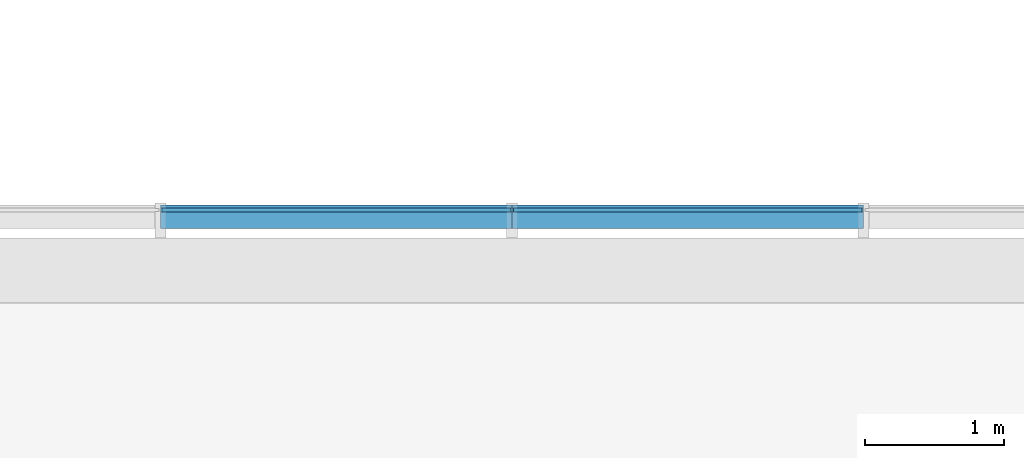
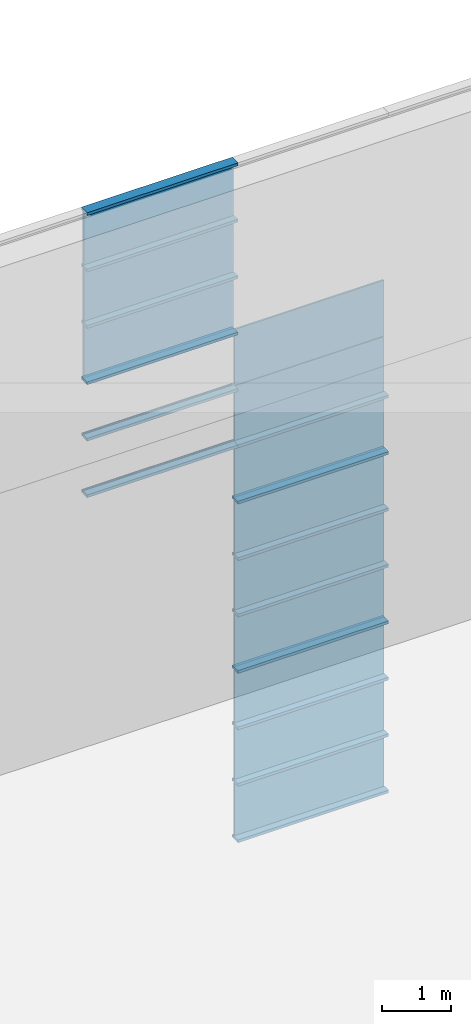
# One storey, part 46 of 105: 29 building element parts, 4 elements without a shape of their own.
"""IFC4 building model written with IfcOpenShell, lengths in millimetres."""

from ifc_helpers import new_model, entity, si_unit, converted_unit, derived_unit, direction, frame, origin_with_axes, place, context, subcontext, project, spatial, triangles, material, element, aggregate, save


model = new_model("IFC4")

# Units and contexts
model_context = context("Model", 3, precision=1e-05, world=origin_with_axes(), true_north=direction((0.0, 1.0)))
body_context = subcontext(model_context, "Body", "Model", "MODEL_VIEW")
ifc_project = project(units=[si_unit("LENGTHUNIT", "METRE", prefix="MILLI"), si_unit("AREAUNIT", "SQUARE_METRE"), si_unit("VOLUMEUNIT", "CUBIC_METRE"), converted_unit("PLANEANGLEUNIT", "DEGREE", entity("IfcLengthMeasure", 0.017453), si_unit("PLANEANGLEUNIT", "RADIAN"), dimensions=[0, 0, 0, 0, 0, 0, 0]), si_unit("SOLIDANGLEUNIT", "STERADIAN"), si_unit("MASSUNIT", "GRAM"), si_unit("TIMEUNIT", "SECOND"), si_unit("THERMODYNAMICTEMPERATUREUNIT", "DEGREE_CELSIUS"), si_unit("LUMINOUSINTENSITYUNIT", "LUMEN"), si_unit("POWERUNIT", "WATT"), derived_unit("THERMALTRANSMITTANCEUNIT", [(si_unit("POWERUNIT", "WATT"), 1), (si_unit("THERMODYNAMICTEMPERATUREUNIT", "KELVIN"), -1), (si_unit("AREAUNIT", "SQUARE_METRE"), -1)])], contexts=[model_context])

# Site, building, storey
site_placement = place(None, origin_with_axes())
site = spatial("IfcSite", under=ifc_project, at=site_placement, Name="Default Site", CompositionType="ELEMENT")
building_placement = place(site_placement, origin_with_axes())
building = spatial("IfcBuilding", under=site, at=building_placement, Name="Default Building", CompositionType="ELEMENT")
storey_placement = place(building_placement, origin_with_axes())
storey = spatial("IfcBuildingStorey", under=building, at=storey_placement, Name="OG - Story", CompositionType="ELEMENT", Elevation=0.0)

# Curtain wall, building element parts
curtain_wall_1_placement = place(storey_placement, origin_with_axes())
curtain_wall_1 = element("IfcCurtainWall", 1, at=curtain_wall_1_placement, inside=storey, Name="Fassade-004", PredefinedType="NOTDEFINED")
ifc_material_1 = material(Name="Normalglas")
building_element_part_1_placement = place(curtain_wall_1_placement, frame((33014.549222, -4389.262838, 0.0), z_axis=(0.0, 0.0, 1.0), x_axis=(1.0, 0.0, 0.0)))
building_element_part_1 = element("IfcBuildingElementPart", 2, at=building_element_part_1_placement, material=ifc_material_1, Name="Normalglas", PredefinedType="NOTDEFINED", context=body_context, shape_type="Tessellation", body=[
    triangles([(18937.368, -14.999, 995.0), (18937.368, 15.0, 995.0), (16431.053, 15.0, 995.0), (16431.053, -14.999, 995.0), (18937.368, -14.999, 5.0), (18937.368, 15.0, 5.0), (16431.053, 15.0, 5.0), (16431.053, -14.999, 5.0)], [[1, 2, 3], [1, 3, 4], [5, 6, 2], [5, 2, 1], [2, 6, 7], [2, 7, 3], [4, 3, 7], [4, 7, 8], [1, 4, 8], [1, 8, 5], [8, 7, 6], [8, 6, 5]], closed=False),
])
building_element_part_2_placement = place(curtain_wall_1_placement, frame((33014.549222, -4389.262838, 0.0), z_axis=(0.0, 0.0, 1.0), x_axis=(1.0, 0.0, 0.0)))
building_element_part_2 = element("IfcBuildingElementPart", 3, at=building_element_part_2_placement, material=ifc_material_1, Name="Normalglas", PredefinedType="NOTDEFINED", context=body_context, shape_type="Tessellation", body=[
    triangles([(18937.368, -14.999, 1995.0), (18937.368, 15.0, 1995.0), (16431.053, 15.0, 1995.0), (16431.053, -14.999, 1995.0), (18937.368, -14.999, 1005.0), (18937.368, 15.0, 1005.0), (16431.053, 15.0, 1005.0), (16431.053, -14.999, 1005.0)], [[1, 2, 3], [1, 3, 4], [5, 6, 2], [5, 2, 1], [2, 6, 7], [2, 7, 3], [4, 3, 7], [4, 7, 8], [1, 4, 8], [1, 8, 5], [8, 7, 6], [8, 6, 5]], closed=False),
])
building_element_part_3_placement = place(curtain_wall_1_placement, frame((33014.549222, -4389.262838, 0.0), z_axis=(0.0, 0.0, 1.0), x_axis=(1.0, 0.0, 0.0)))
building_element_part_3 = element("IfcBuildingElementPart", 4, at=building_element_part_3_placement, material=ifc_material_1, Name="Normalglas", PredefinedType="NOTDEFINED", context=body_context, shape_type="Tessellation", body=[
    triangles([(18937.368, -14.999, 2995.0), (18937.368, 15.0, 2995.0), (16431.053, 15.0, 2995.0), (16431.053, -14.999, 2995.0), (18937.368, -14.999, 2005.0), (18937.368, 15.0, 2005.0), (16431.053, 15.0, 2005.0), (16431.053, -14.999, 2005.0)], [[1, 2, 3], [1, 3, 4], [5, 6, 2], [5, 2, 1], [2, 6, 7], [2, 7, 3], [4, 3, 7], [4, 7, 8], [1, 4, 8], [1, 8, 5], [8, 7, 6], [8, 6, 5]], closed=False),
])
ifc_material_2 = material(Name="Blech")
building_element_part_4_placement = place(curtain_wall_1_placement, frame((33014.549222, -4389.262838, 0.0), z_axis=(0.0, 0.0, 1.0), x_axis=(1.0, 0.0, 0.0)))
building_element_part_4 = element("IfcBuildingElementPart", 5, at=building_element_part_4_placement, material=ifc_material_2, Name="Blech", PredefinedType="NOTDEFINED", context=body_context, shape_type="Tessellation", body=[
    triangles([(18947.368, 35.0, -24.999), (18947.368, 35.0, 25.0), (18947.368, 15.0, 25.0), (18947.368, 15.0, 5.0), (18947.368, -14.999, 5.0), (18947.368, -132.999, 25.0), (18947.368, -132.999, -24.999), (18947.368, -14.999, 25.0), (16421.053, -14.999, 5.0), (16421.053, -14.999, 25.0), (16421.053, -132.999, 25.0), (16421.053, -132.999, -24.999), (16421.053, 35.0, -24.999), (16421.053, 35.0, 25.0), (16421.053, 15.0, 25.0), (16421.053, 15.0, 5.0)], [[1, 2, 3], [1, 3, 4], [1, 4, 5], [1, 5, 6], [1, 6, 7], [8, 6, 5], [5, 9, 10], [5, 10, 8], [10, 11, 6], [10, 6, 8], [11, 12, 7], [11, 7, 6], [12, 13, 1], [12, 1, 7], [13, 14, 2], [13, 2, 1], [3, 2, 14], [3, 14, 15], [15, 16, 4], [15, 4, 3], [4, 16, 9], [4, 9, 5], [15, 16, 13], [13, 16, 9], [13, 9, 11], [11, 9, 10], [13, 11, 12], [15, 13, 14]], closed=False),
])
building_element_part_5_placement = place(curtain_wall_1_placement, frame((33014.549222, -4389.262838, 0.0), z_axis=(0.0, 0.0, 1.0), x_axis=(1.0, 0.0, 0.0)))
building_element_part_5 = element("IfcBuildingElementPart", 6, at=building_element_part_5_placement, material=ifc_material_2, Name="Blech", PredefinedType="NOTDEFINED", context=body_context, shape_type="Tessellation", body=[
    triangles([(18947.368, 35.0, 975.0), (18947.368, 15.0, 975.0), (18947.368, 35.0, 1025.0), (18947.368, 15.0, 995.0), (18947.368, 15.0, 1005.0), (18947.368, -14.999, 995.0), (18947.368, -14.999, 1005.0), (18947.368, -14.999, 1025.0), (18947.368, -14.999, 975.0), (18947.368, -132.999, 975.0), (18947.368, -132.999, 1025.0), (18947.368, 15.0, 1025.0), (16421.053, -14.999, 995.0), (16421.053, 15.0, 995.0), (16421.053, 15.0, 975.0), (16421.053, 35.0, 975.0), (16421.053, 35.0, 1025.0), (16421.053, 15.0, 1025.0), (16421.053, 15.0, 1005.0), (16421.053, -14.999, 1005.0), (16421.053, -14.999, 1025.0), (16421.053, -132.999, 1025.0), (16421.053, -132.999, 975.0), (16421.053, -14.999, 975.0)], [[1, 2, 3], [3, 2, 4], [3, 4, 5], [5, 4, 6], [5, 6, 7], [8, 9, 10], [8, 10, 11], [3, 5, 12], [6, 13, 14], [6, 14, 4], [4, 14, 15], [4, 15, 2], [15, 16, 1], [15, 1, 2], [1, 16, 17], [1, 17, 3], [18, 12, 3], [18, 3, 17], [12, 18, 19], [12, 19, 5], [7, 5, 19], [7, 19, 20], [8, 7, 20], [8, 20, 21], [8, 21, 22], [8, 22, 11], [11, 22, 23], [11, 23, 10], [9, 10, 23], [9, 23, 24], [9, 24, 13], [9, 13, 6], [17, 18, 16], [16, 18, 19], [16, 19, 14], [14, 19, 20], [14, 20, 13], [24, 21, 22], [24, 22, 23], [16, 14, 15]], closed=False),
])
building_element_part_6_placement = place(curtain_wall_1_placement, frame((33014.549222, -4389.262838, 0.0), z_axis=(0.0, 0.0, 1.0), x_axis=(1.0, 0.0, 0.0)))
building_element_part_6 = element("IfcBuildingElementPart", 7, at=building_element_part_6_placement, material=ifc_material_2, Name="Blech", PredefinedType="NOTDEFINED", context=body_context, shape_type="Tessellation", body=[
    triangles([(18947.368, 35.0, 1975.0), (18947.368, 15.0, 1975.0), (18947.368, 35.0, 2025.0), (18947.368, 15.0, 1995.0), (18947.368, 15.0, 2005.0), (18947.368, -14.999, 1995.0), (18947.368, -14.999, 2005.0), (18947.368, -14.999, 2025.0), (18947.368, -14.999, 1975.0), (18947.368, -132.999, 1975.0), (18947.368, -132.999, 2025.0), (18947.368, 15.0, 2025.0), (16421.053, -14.999, 1995.0), (16421.053, 15.0, 1995.0), (16421.053, 15.0, 1975.0), (16421.053, 35.0, 1975.0), (16421.053, 35.0, 2025.0), (16421.053, 15.0, 2025.0), (16421.053, 15.0, 2005.0), (16421.053, -14.999, 2005.0), (16421.053, -14.999, 2025.0), (16421.053, -132.999, 2025.0), (16421.053, -132.999, 1975.0), (16421.053, -14.999, 1975.0)], [[1, 2, 3], [3, 2, 4], [3, 4, 5], [5, 4, 6], [5, 6, 7], [8, 9, 10], [8, 10, 11], [3, 5, 12], [6, 13, 14], [6, 14, 4], [4, 14, 15], [4, 15, 2], [15, 16, 1], [15, 1, 2], [1, 16, 17], [1, 17, 3], [18, 12, 3], [18, 3, 17], [12, 18, 19], [12, 19, 5], [7, 5, 19], [7, 19, 20], [8, 7, 20], [8, 20, 21], [8, 21, 22], [8, 22, 11], [11, 22, 23], [11, 23, 10], [9, 10, 23], [9, 23, 24], [9, 24, 13], [9, 13, 6], [17, 18, 16], [16, 18, 19], [16, 19, 14], [14, 19, 20], [14, 20, 13], [24, 21, 22], [24, 22, 23], [16, 14, 15]], closed=False),
])
building_element_part_7_placement = place(curtain_wall_1_placement, frame((33014.549222, -4389.262838, 0.0), z_axis=(0.0, 0.0, 1.0), x_axis=(1.0, 0.0, 0.0)))
building_element_part_7 = element("IfcBuildingElementPart", 8, at=building_element_part_7_placement, material=ifc_material_2, Name="Blech", PredefinedType="NOTDEFINED", context=body_context, shape_type="Tessellation", body=[
    triangles([(18947.368, 15.0, 2975.0), (18947.368, 15.0, 2995.0), (18947.368, 35.0, 3025.0), (18947.368, -14.999, 2995.0), (18947.368, -132.999, 2975.0), (18947.368, -14.999, 2975.0), (18947.368, -132.999, 3025.0), (18947.368, 35.0, 2975.0), (16421.053, -14.999, 2995.0), (16421.053, 15.0, 2995.0), (16421.053, 15.0, 2975.0), (16421.053, 35.0, 2975.0), (16421.053, 35.0, 3025.0), (16421.053, -132.999, 3025.0), (16421.053, -132.999, 2975.0), (16421.053, -14.999, 2975.0)], [[1, 2, 3], [3, 2, 4], [3, 4, 5], [5, 4, 6], [3, 5, 7], [1, 3, 8], [2, 4, 9], [2, 9, 10], [11, 1, 2], [11, 2, 10], [1, 11, 12], [1, 12, 8], [13, 3, 8], [13, 8, 12], [14, 7, 3], [14, 3, 13], [15, 5, 7], [15, 7, 14], [16, 6, 5], [16, 5, 15], [4, 6, 16], [4, 16, 9], [13, 12, 11], [13, 11, 10], [13, 10, 9], [13, 9, 15], [13, 15, 14], [16, 15, 9]], closed=False),
])
aggregate(curtain_wall_1, [building_element_part_1, building_element_part_2, building_element_part_3, building_element_part_4, building_element_part_5, building_element_part_6, building_element_part_7])

curtain_wall_2_placement = place(storey_placement, origin_with_axes())
curtain_wall_2 = element("IfcCurtainWall", 9, at=curtain_wall_2_placement, inside=storey, Name="Fassade-004", PredefinedType="NOTDEFINED")
building_element_part_8_placement = place(curtain_wall_2_placement, frame((33014.549222, -4389.262838, 3000.0), z_axis=(0.0, 0.0, 1.0), x_axis=(1.0, 0.0, 0.0)))
building_element_part_8 = element("IfcBuildingElementPart", 10, at=building_element_part_8_placement, material=ifc_material_1, Name="Normalglas", PredefinedType="NOTDEFINED", context=body_context, shape_type="Tessellation", body=[
    triangles([(18937.368, -14.999, 995.0), (18937.368, 15.0, 995.0), (16431.053, 15.0, 995.0), (16431.053, -14.999, 995.0), (18937.368, -14.999, 5.0), (18937.368, 15.0, 5.0), (16431.053, 15.0, 5.0), (16431.053, -14.999, 5.0)], [[1, 2, 3], [1, 3, 4], [5, 6, 2], [5, 2, 1], [2, 6, 7], [2, 7, 3], [4, 3, 7], [4, 7, 8], [1, 4, 8], [1, 8, 5], [8, 7, 6], [8, 6, 5]], closed=False),
])
building_element_part_9_placement = place(curtain_wall_2_placement, frame((33014.549222, -4389.262838, 3000.0), z_axis=(0.0, 0.0, 1.0), x_axis=(1.0, 0.0, 0.0)))
building_element_part_9 = element("IfcBuildingElementPart", 11, at=building_element_part_9_placement, material=ifc_material_1, Name="Normalglas", PredefinedType="NOTDEFINED", context=body_context, shape_type="Tessellation", body=[
    triangles([(18937.368, -14.999, 1995.0), (18937.368, 15.0, 1995.0), (16431.053, 15.0, 1995.0), (16431.053, -14.999, 1995.0), (18937.368, -14.999, 1005.0), (18937.368, 15.0, 1005.0), (16431.053, 15.0, 1005.0), (16431.053, -14.999, 1005.0)], [[1, 2, 3], [1, 3, 4], [5, 6, 2], [5, 2, 1], [2, 6, 7], [2, 7, 3], [4, 3, 7], [4, 7, 8], [1, 4, 8], [1, 8, 5], [8, 7, 6], [8, 6, 5]], closed=False),
])
building_element_part_10_placement = place(curtain_wall_2_placement, frame((33014.549222, -4389.262838, 3000.0), z_axis=(0.0, 0.0, 1.0), x_axis=(1.0, 0.0, 0.0)))
building_element_part_10 = element("IfcBuildingElementPart", 12, at=building_element_part_10_placement, material=ifc_material_1, Name="Normalglas", PredefinedType="NOTDEFINED", context=body_context, shape_type="Tessellation", body=[
    triangles([(18937.368, -14.999, 2995.0), (18937.368, 15.0, 2995.0), (16431.053, 15.0, 2995.0), (16431.053, -14.999, 2995.0), (18937.368, -14.999, 2005.0), (18937.368, 15.0, 2005.0), (16431.053, 15.0, 2005.0), (16431.053, -14.999, 2005.0)], [[1, 2, 3], [1, 3, 4], [5, 6, 2], [5, 2, 1], [2, 6, 7], [2, 7, 3], [4, 3, 7], [4, 7, 8], [1, 4, 8], [1, 8, 5], [8, 7, 6], [8, 6, 5]], closed=False),
])
building_element_part_11_placement = place(curtain_wall_2_placement, frame((33014.549222, -4389.262838, 3000.0), z_axis=(0.0, 0.0, 1.0), x_axis=(1.0, 0.0, 0.0)))
building_element_part_11 = element("IfcBuildingElementPart", 13, at=building_element_part_11_placement, material=ifc_material_2, Name="Blech", PredefinedType="NOTDEFINED", context=body_context, shape_type="Tessellation", body=[
    triangles([(18947.368, 35.0, -24.999), (18947.368, 35.0, 25.0), (18947.368, 15.0, 25.0), (18947.368, 15.0, 5.0), (18947.368, -14.999, 5.0), (18947.368, -132.999, 25.0), (18947.368, -132.999, -24.999), (18947.368, -14.999, 25.0), (16421.053, -14.999, 5.0), (16421.053, -14.999, 25.0), (16421.053, -132.999, 25.0), (16421.053, -132.999, -24.999), (16421.053, 35.0, -24.999), (16421.053, 35.0, 25.0), (16421.053, 15.0, 25.0), (16421.053, 15.0, 5.0)], [[1, 2, 3], [1, 3, 4], [1, 4, 5], [1, 5, 6], [1, 6, 7], [8, 6, 5], [5, 9, 10], [5, 10, 8], [10, 11, 6], [10, 6, 8], [11, 12, 7], [11, 7, 6], [12, 13, 1], [12, 1, 7], [13, 14, 2], [13, 2, 1], [3, 2, 14], [3, 14, 15], [15, 16, 4], [15, 4, 3], [4, 16, 9], [4, 9, 5], [15, 16, 13], [13, 16, 9], [13, 9, 11], [11, 9, 10], [13, 11, 12], [15, 13, 14]], closed=False),
])
building_element_part_12_placement = place(curtain_wall_2_placement, frame((33014.549222, -4389.262838, 3000.0), z_axis=(0.0, 0.0, 1.0), x_axis=(1.0, 0.0, 0.0)))
building_element_part_12 = element("IfcBuildingElementPart", 14, at=building_element_part_12_placement, material=ifc_material_2, Name="Blech", PredefinedType="NOTDEFINED", context=body_context, shape_type="Tessellation", body=[
    triangles([(18947.368, 35.0, 975.0), (18947.368, 15.0, 975.0), (18947.368, 35.0, 1025.0), (18947.368, 15.0, 995.0), (18947.368, 15.0, 1005.0), (18947.368, -14.999, 995.0), (18947.368, -14.999, 1005.0), (18947.368, -14.999, 1025.0), (18947.368, -14.999, 975.0), (18947.368, -132.999, 975.0), (18947.368, -132.999, 1025.0), (18947.368, 15.0, 1025.0), (16421.053, -14.999, 995.0), (16421.053, 15.0, 995.0), (16421.053, 15.0, 975.0), (16421.053, 35.0, 975.0), (16421.053, 35.0, 1025.0), (16421.053, 15.0, 1025.0), (16421.053, 15.0, 1005.0), (16421.053, -14.999, 1005.0), (16421.053, -14.999, 1025.0), (16421.053, -132.999, 1025.0), (16421.053, -132.999, 975.0), (16421.053, -14.999, 975.0)], [[1, 2, 3], [3, 2, 4], [3, 4, 5], [5, 4, 6], [5, 6, 7], [8, 9, 10], [8, 10, 11], [3, 5, 12], [6, 13, 14], [6, 14, 4], [4, 14, 15], [4, 15, 2], [15, 16, 1], [15, 1, 2], [1, 16, 17], [1, 17, 3], [18, 12, 3], [18, 3, 17], [12, 18, 19], [12, 19, 5], [7, 5, 19], [7, 19, 20], [8, 7, 20], [8, 20, 21], [8, 21, 22], [8, 22, 11], [11, 22, 23], [11, 23, 10], [9, 10, 23], [9, 23, 24], [9, 24, 13], [9, 13, 6], [17, 18, 16], [16, 18, 19], [16, 19, 14], [14, 19, 20], [14, 20, 13], [24, 21, 22], [24, 22, 23], [16, 14, 15]], closed=False),
])
building_element_part_13_placement = place(curtain_wall_2_placement, frame((33014.549222, -4389.262838, 3000.0), z_axis=(0.0, 0.0, 1.0), x_axis=(1.0, 0.0, 0.0)))
building_element_part_13 = element("IfcBuildingElementPart", 15, at=building_element_part_13_placement, material=ifc_material_2, Name="Blech", PredefinedType="NOTDEFINED", context=body_context, shape_type="Tessellation", body=[
    triangles([(18947.368, 35.0, 1975.0), (18947.368, 15.0, 1975.0), (18947.368, 35.0, 2025.0), (18947.368, 15.0, 1995.0), (18947.368, 15.0, 2005.0), (18947.368, -14.999, 1995.0), (18947.368, -14.999, 2005.0), (18947.368, -14.999, 2025.0), (18947.368, -14.999, 1975.0), (18947.368, -132.999, 1975.0), (18947.368, -132.999, 2025.0), (18947.368, 15.0, 2025.0), (16421.053, -14.999, 1995.0), (16421.053, 15.0, 1995.0), (16421.053, 15.0, 1975.0), (16421.053, 35.0, 1975.0), (16421.053, 35.0, 2025.0), (16421.053, 15.0, 2025.0), (16421.053, 15.0, 2005.0), (16421.053, -14.999, 2005.0), (16421.053, -14.999, 2025.0), (16421.053, -132.999, 2025.0), (16421.053, -132.999, 1975.0), (16421.053, -14.999, 1975.0)], [[1, 2, 3], [3, 2, 4], [3, 4, 5], [5, 4, 6], [5, 6, 7], [8, 9, 10], [8, 10, 11], [3, 5, 12], [6, 13, 14], [6, 14, 4], [4, 14, 15], [4, 15, 2], [15, 16, 1], [15, 1, 2], [1, 16, 17], [1, 17, 3], [18, 12, 3], [18, 3, 17], [12, 18, 19], [12, 19, 5], [7, 5, 19], [7, 19, 20], [8, 7, 20], [8, 20, 21], [8, 21, 22], [8, 22, 11], [11, 22, 23], [11, 23, 10], [9, 10, 23], [9, 23, 24], [9, 24, 13], [9, 13, 6], [17, 18, 16], [16, 18, 19], [16, 19, 14], [14, 19, 20], [14, 20, 13], [24, 21, 22], [24, 22, 23], [16, 14, 15]], closed=False),
])
building_element_part_14_placement = place(curtain_wall_2_placement, frame((33014.549222, -4389.262838, 3000.0), z_axis=(0.0, 0.0, 1.0), x_axis=(1.0, 0.0, 0.0)))
building_element_part_14 = element("IfcBuildingElementPart", 16, at=building_element_part_14_placement, material=ifc_material_2, Name="Blech", PredefinedType="NOTDEFINED", context=body_context, shape_type="Tessellation", body=[
    triangles([(18947.368, 15.0, 2975.0), (18947.368, 15.0, 2995.0), (18947.368, 35.0, 3025.0), (18947.368, -14.999, 2995.0), (18947.368, -132.999, 2975.0), (18947.368, -14.999, 2975.0), (18947.368, -132.999, 3025.0), (18947.368, 35.0, 2975.0), (16421.053, -14.999, 2995.0), (16421.053, 15.0, 2995.0), (16421.053, 15.0, 2975.0), (16421.053, 35.0, 2975.0), (16421.053, 35.0, 3025.0), (16421.053, -132.999, 3025.0), (16421.053, -132.999, 2975.0), (16421.053, -14.999, 2975.0)], [[1, 2, 3], [3, 2, 4], [3, 4, 5], [5, 4, 6], [3, 5, 7], [1, 3, 8], [2, 4, 9], [2, 9, 10], [11, 1, 2], [11, 2, 10], [1, 11, 12], [1, 12, 8], [13, 3, 8], [13, 8, 12], [14, 7, 3], [14, 3, 13], [15, 5, 7], [15, 7, 14], [16, 6, 5], [16, 5, 15], [4, 6, 16], [4, 16, 9], [13, 12, 11], [13, 11, 10], [13, 10, 9], [13, 9, 15], [13, 15, 14], [16, 15, 9]], closed=False),
])
aggregate(curtain_wall_2, [building_element_part_8, building_element_part_9, building_element_part_10, building_element_part_11, building_element_part_12, building_element_part_13, building_element_part_14])

curtain_wall_3_placement = place(storey_placement, origin_with_axes())
curtain_wall_3 = element("IfcCurtainWall", 17, at=curtain_wall_3_placement, inside=storey, Name="Fassade-004", PredefinedType="NOTDEFINED")
building_element_part_15_placement = place(curtain_wall_3_placement, frame((33014.549222, -4389.262838, 6000.0), z_axis=(0.0, 0.0, 1.0), x_axis=(1.0, 0.0, 0.0)))
building_element_part_15 = element("IfcBuildingElementPart", 18, at=building_element_part_15_placement, material=ifc_material_1, Name="Normalglas", PredefinedType="NOTDEFINED", context=body_context, shape_type="Tessellation", body=[
    triangles([(18937.368, -14.999, 995.0), (18937.368, 15.0, 995.0), (16431.053, 15.0, 995.0), (16431.053, -14.999, 995.0), (18937.368, -14.999, 5.0), (18937.368, 15.0, 5.0), (16431.053, 15.0, 5.0), (16431.053, -14.999, 5.0)], [[1, 2, 3], [1, 3, 4], [5, 6, 2], [5, 2, 1], [2, 6, 7], [2, 7, 3], [4, 3, 7], [4, 7, 8], [1, 4, 8], [1, 8, 5], [8, 7, 6], [8, 6, 5]], closed=False),
])
building_element_part_16_placement = place(curtain_wall_3_placement, frame((33014.549222, -4389.262838, 6000.0), z_axis=(0.0, 0.0, 1.0), x_axis=(1.0, 0.0, 0.0)))
building_element_part_16 = element("IfcBuildingElementPart", 19, at=building_element_part_16_placement, material=ifc_material_1, Name="Normalglas", PredefinedType="NOTDEFINED", context=body_context, shape_type="Tessellation", body=[
    triangles([(18937.368, -14.999, 1995.0), (18937.368, 15.0, 1995.0), (16431.053, 15.0, 1995.0), (16431.053, -14.999, 1995.0), (18937.368, -14.999, 1005.0), (18937.368, 15.0, 1005.0), (16431.053, 15.0, 1005.0), (16431.053, -14.999, 1005.0)], [[1, 2, 3], [1, 3, 4], [5, 6, 2], [5, 2, 1], [2, 6, 7], [2, 7, 3], [4, 3, 7], [4, 7, 8], [1, 4, 8], [1, 8, 5], [8, 7, 6], [8, 6, 5]], closed=False),
])
building_element_part_17_placement = place(curtain_wall_3_placement, frame((33014.549222, -4389.262838, 6000.0), z_axis=(0.0, 0.0, 1.0), x_axis=(1.0, 0.0, 0.0)))
building_element_part_17 = element("IfcBuildingElementPart", 20, at=building_element_part_17_placement, material=ifc_material_1, Name="Normalglas", PredefinedType="NOTDEFINED", context=body_context, shape_type="Tessellation", body=[
    triangles([(18937.368, -14.999, 2995.0), (18937.368, 15.0, 2995.0), (16431.053, 15.0, 2995.0), (16431.053, -14.999, 2995.0), (18937.368, -14.999, 2005.0), (18937.368, 15.0, 2005.0), (16431.053, 15.0, 2005.0), (16431.053, -14.999, 2005.0)], [[1, 2, 3], [1, 3, 4], [5, 6, 2], [5, 2, 1], [2, 6, 7], [2, 7, 3], [4, 3, 7], [4, 7, 8], [1, 4, 8], [1, 8, 5], [8, 7, 6], [8, 6, 5]], closed=False),
])
building_element_part_18_placement = place(curtain_wall_3_placement, frame((33014.549222, -4389.262838, 6000.0), z_axis=(0.0, 0.0, 1.0), x_axis=(1.0, 0.0, 0.0)))
building_element_part_18 = element("IfcBuildingElementPart", 21, at=building_element_part_18_placement, material=ifc_material_2, Name="Blech", PredefinedType="NOTDEFINED", context=body_context, shape_type="Tessellation", body=[
    triangles([(18947.368, 35.0, -24.999), (18947.368, 35.0, 25.0), (18947.368, 15.0, 25.0), (18947.368, 15.0, 5.0), (18947.368, -14.999, 5.0), (18947.368, -132.999, 25.0), (18947.368, -132.999, -24.999), (18947.368, -14.999, 25.0), (16421.053, -14.999, 5.0), (16421.053, -14.999, 25.0), (16421.053, -132.999, 25.0), (16421.053, -132.999, -24.999), (16421.053, 35.0, -24.999), (16421.053, 35.0, 25.0), (16421.053, 15.0, 25.0), (16421.053, 15.0, 5.0)], [[1, 2, 3], [1, 3, 4], [1, 4, 5], [1, 5, 6], [1, 6, 7], [8, 6, 5], [5, 9, 10], [5, 10, 8], [10, 11, 6], [10, 6, 8], [11, 12, 7], [11, 7, 6], [12, 13, 1], [12, 1, 7], [13, 14, 2], [13, 2, 1], [3, 2, 14], [3, 14, 15], [15, 16, 4], [15, 4, 3], [4, 16, 9], [4, 9, 5], [15, 16, 13], [13, 16, 9], [13, 9, 11], [11, 9, 10], [13, 11, 12], [15, 13, 14]], closed=False),
])
building_element_part_19_placement = place(curtain_wall_3_placement, frame((33014.549222, -4389.262838, 6000.0), z_axis=(0.0, 0.0, 1.0), x_axis=(1.0, 0.0, 0.0)))
building_element_part_19 = element("IfcBuildingElementPart", 22, at=building_element_part_19_placement, material=ifc_material_2, Name="Blech", PredefinedType="NOTDEFINED", context=body_context, shape_type="Tessellation", body=[
    triangles([(16421.053, 35.0, 975.0), (16421.053, 15.0, 975.0), (16421.053, 35.0, 1025.0), (16421.053, 15.0, 995.0), (16421.053, 15.0, 1005.0), (16421.053, -14.999, 995.0), (16421.053, -14.999, 1005.0), (16421.053, -14.999, 1025.0), (16421.053, -14.999, 975.0), (16421.053, -132.999, 975.0), (16421.053, -132.999, 1025.0), (16421.053, 15.0, 1025.0), (13894.737, -14.999, 995.0), (13894.737, 15.0, 995.0), (13894.737, 15.0, 975.0), (13894.737, 35.0, 975.0), (13894.737, 35.0, 1025.0), (13894.737, 15.0, 1025.0), (13894.737, 15.0, 1005.0), (13894.737, -14.999, 1005.0), (13894.737, -14.999, 1025.0), (13894.737, -132.999, 1025.0), (13894.737, -132.999, 975.0), (13894.737, -14.999, 975.0)], [[1, 2, 3], [3, 2, 4], [3, 4, 5], [5, 4, 6], [5, 6, 7], [8, 9, 10], [8, 10, 11], [3, 5, 12], [6, 13, 14], [6, 14, 4], [4, 14, 15], [4, 15, 2], [15, 16, 1], [15, 1, 2], [1, 16, 17], [1, 17, 3], [18, 12, 3], [18, 3, 17], [12, 18, 19], [12, 19, 5], [7, 5, 19], [7, 19, 20], [8, 7, 20], [8, 20, 21], [8, 21, 22], [8, 22, 11], [11, 22, 23], [11, 23, 10], [9, 10, 23], [9, 23, 24], [9, 24, 13], [9, 13, 6], [17, 18, 16], [16, 18, 19], [16, 19, 14], [14, 19, 20], [14, 20, 13], [24, 21, 22], [24, 22, 23], [16, 14, 15]], closed=False),
])
building_element_part_20_placement = place(curtain_wall_3_placement, frame((33014.549222, -4389.262838, 6000.0), z_axis=(0.0, 0.0, 1.0), x_axis=(1.0, 0.0, 0.0)))
building_element_part_20 = element("IfcBuildingElementPart", 23, at=building_element_part_20_placement, material=ifc_material_2, Name="Blech", PredefinedType="NOTDEFINED", context=body_context, shape_type="Tessellation", body=[
    triangles([(18947.368, 35.0, 975.0), (18947.368, 15.0, 975.0), (18947.368, 35.0, 1025.0), (18947.368, 15.0, 995.0), (18947.368, 15.0, 1005.0), (18947.368, -14.999, 995.0), (18947.368, -14.999, 1005.0), (18947.368, -14.999, 1025.0), (18947.368, -14.999, 975.0), (18947.368, -132.999, 975.0), (18947.368, -132.999, 1025.0), (18947.368, 15.0, 1025.0), (16421.053, -14.999, 995.0), (16421.053, 15.0, 995.0), (16421.053, 15.0, 975.0), (16421.053, 35.0, 975.0), (16421.053, 35.0, 1025.0), (16421.053, 15.0, 1025.0), (16421.053, 15.0, 1005.0), (16421.053, -14.999, 1005.0), (16421.053, -14.999, 1025.0), (16421.053, -132.999, 1025.0), (16421.053, -132.999, 975.0), (16421.053, -14.999, 975.0)], [[1, 2, 3], [3, 2, 4], [3, 4, 5], [5, 4, 6], [5, 6, 7], [8, 9, 10], [8, 10, 11], [3, 5, 12], [6, 13, 14], [6, 14, 4], [4, 14, 15], [4, 15, 2], [15, 16, 1], [15, 1, 2], [1, 16, 17], [1, 17, 3], [18, 12, 3], [18, 3, 17], [12, 18, 19], [12, 19, 5], [7, 5, 19], [7, 19, 20], [8, 7, 20], [8, 20, 21], [8, 21, 22], [8, 22, 11], [11, 22, 23], [11, 23, 10], [9, 10, 23], [9, 23, 24], [9, 24, 13], [9, 13, 6], [17, 18, 16], [16, 18, 19], [16, 19, 14], [14, 19, 20], [14, 20, 13], [24, 21, 22], [24, 22, 23], [16, 14, 15]], closed=False),
])
building_element_part_21_placement = place(curtain_wall_3_placement, frame((33014.549222, -4389.262838, 6000.0), z_axis=(0.0, 0.0, 1.0), x_axis=(1.0, 0.0, 0.0)))
building_element_part_21 = element("IfcBuildingElementPart", 24, at=building_element_part_21_placement, material=ifc_material_2, Name="Blech", PredefinedType="NOTDEFINED", context=body_context, shape_type="Tessellation", body=[
    triangles([(16421.053, 35.0, 1975.0), (16421.053, 15.0, 1975.0), (16421.053, 35.0, 2025.0), (16421.053, 15.0, 1995.0), (16421.053, 15.0, 2005.0), (16421.053, -14.999, 1995.0), (16421.053, -14.999, 2005.0), (16421.053, -14.999, 2025.0), (16421.053, -14.999, 1975.0), (16421.053, -132.999, 1975.0), (16421.053, -132.999, 2025.0), (16421.053, 15.0, 2025.0), (13894.737, -14.999, 1995.0), (13894.737, 15.0, 1995.0), (13894.737, 15.0, 1975.0), (13894.737, 35.0, 1975.0), (13894.737, 35.0, 2025.0), (13894.737, 15.0, 2025.0), (13894.737, 15.0, 2005.0), (13894.737, -14.999, 2005.0), (13894.737, -14.999, 2025.0), (13894.737, -132.999, 2025.0), (13894.737, -132.999, 1975.0), (13894.737, -14.999, 1975.0)], [[1, 2, 3], [3, 2, 4], [3, 4, 5], [5, 4, 6], [5, 6, 7], [8, 9, 10], [8, 10, 11], [3, 5, 12], [6, 13, 14], [6, 14, 4], [4, 14, 15], [4, 15, 2], [15, 16, 1], [15, 1, 2], [1, 16, 17], [1, 17, 3], [18, 12, 3], [18, 3, 17], [12, 18, 19], [12, 19, 5], [7, 5, 19], [7, 19, 20], [8, 7, 20], [8, 20, 21], [8, 21, 22], [8, 22, 11], [11, 22, 23], [11, 23, 10], [9, 10, 23], [9, 23, 24], [9, 24, 13], [9, 13, 6], [17, 18, 16], [16, 18, 19], [16, 19, 14], [14, 19, 20], [14, 20, 13], [24, 21, 22], [24, 22, 23], [16, 14, 15]], closed=False),
])
building_element_part_22_placement = place(curtain_wall_3_placement, frame((33014.549222, -4389.262838, 6000.0), z_axis=(0.0, 0.0, 1.0), x_axis=(1.0, 0.0, 0.0)))
building_element_part_22 = element("IfcBuildingElementPart", 25, at=building_element_part_22_placement, material=ifc_material_2, Name="Blech", PredefinedType="NOTDEFINED", context=body_context, shape_type="Tessellation", body=[
    triangles([(16421.053, 15.0, 2975.0), (16421.053, 15.0, 2995.0), (16421.053, 35.0, 3025.0), (16421.053, -14.999, 2995.0), (16421.053, -132.999, 2975.0), (16421.053, -14.999, 2975.0), (16421.053, -132.999, 3025.0), (16421.053, 35.0, 2975.0), (13894.737, -14.999, 2995.0), (13894.737, 15.0, 2995.0), (13894.737, 15.0, 2975.0), (13894.737, 35.0, 2975.0), (13894.737, 35.0, 3025.0), (13894.737, -132.999, 3025.0), (13894.737, -132.999, 2975.0), (13894.737, -14.999, 2975.0)], [[1, 2, 3], [3, 2, 4], [3, 4, 5], [5, 4, 6], [3, 5, 7], [1, 3, 8], [2, 4, 9], [2, 9, 10], [11, 1, 2], [11, 2, 10], [1, 11, 12], [1, 12, 8], [13, 3, 8], [13, 8, 12], [14, 7, 3], [14, 3, 13], [15, 5, 7], [15, 7, 14], [16, 6, 5], [16, 5, 15], [4, 6, 16], [4, 16, 9], [13, 12, 11], [13, 11, 10], [13, 10, 9], [13, 9, 15], [13, 15, 14], [16, 15, 9]], closed=False),
])
aggregate(curtain_wall_3, [building_element_part_15, building_element_part_16, building_element_part_17, building_element_part_18, building_element_part_19, building_element_part_20, building_element_part_21, building_element_part_22])

curtain_wall_4_placement = place(storey_placement, origin_with_axes())
curtain_wall_4 = element("IfcCurtainWall", 26, at=curtain_wall_4_placement, inside=storey, Name="Fassade-004", PredefinedType="NOTDEFINED")
building_element_part_23_placement = place(curtain_wall_4_placement, frame((33014.549222, -4389.262838, 9000.0), z_axis=(0.0, 0.0, 1.0), x_axis=(1.0, 0.0, 0.0)))
building_element_part_23 = element("IfcBuildingElementPart", 27, at=building_element_part_23_placement, material=ifc_material_1, Name="Normalglas", PredefinedType="NOTDEFINED", context=body_context, shape_type="Tessellation", body=[
    triangles([(16411.053, -14.999, 995.0), (16411.053, 15.0, 995.0), (13904.737, 15.0, 995.0), (13904.737, -14.999, 995.0), (16411.053, -14.999, 5.0), (16411.053, 15.0, 5.0), (13904.737, 15.0, 5.0), (13904.737, -14.999, 5.0)], [[1, 2, 3], [1, 3, 4], [5, 6, 2], [5, 2, 1], [2, 6, 7], [2, 7, 3], [4, 3, 7], [4, 7, 8], [1, 4, 8], [1, 8, 5], [8, 7, 6], [8, 6, 5]], closed=False),
])
building_element_part_24_placement = place(curtain_wall_4_placement, frame((33014.549222, -4389.262838, 9000.0), z_axis=(0.0, 0.0, 1.0), x_axis=(1.0, 0.0, 0.0)))
building_element_part_24 = element("IfcBuildingElementPart", 28, at=building_element_part_24_placement, material=ifc_material_1, Name="Normalglas", PredefinedType="NOTDEFINED", context=body_context, shape_type="Tessellation", body=[
    triangles([(16411.053, -14.999, 1995.0), (16411.053, 15.0, 1995.0), (13904.737, 15.0, 1995.0), (13904.737, -14.999, 1995.0), (16411.053, -14.999, 1005.0), (16411.053, 15.0, 1005.0), (13904.737, 15.0, 1005.0), (13904.737, -14.999, 1005.0)], [[1, 2, 3], [1, 3, 4], [5, 6, 2], [5, 2, 1], [2, 6, 7], [2, 7, 3], [4, 3, 7], [4, 7, 8], [1, 4, 8], [1, 8, 5], [8, 7, 6], [8, 6, 5]], closed=False),
])
building_element_part_25_placement = place(curtain_wall_4_placement, frame((33014.549222, -4389.262838, 9000.0), z_axis=(0.0, 0.0, 1.0), x_axis=(1.0, 0.0, 0.0)))
building_element_part_25 = element("IfcBuildingElementPart", 29, at=building_element_part_25_placement, material=ifc_material_1, Name="Normalglas", PredefinedType="NOTDEFINED", context=body_context, shape_type="Tessellation", body=[
    triangles([(16411.053, -14.999, 2995.0), (16411.053, 15.0, 2995.0), (13904.737, 15.0, 2995.0), (13904.737, -14.999, 2995.0), (16411.053, -14.999, 2005.0), (16411.053, 15.0, 2005.0), (13904.737, 15.0, 2005.0), (13904.737, -14.999, 2005.0)], [[1, 2, 3], [1, 3, 4], [5, 6, 2], [5, 2, 1], [2, 6, 7], [2, 7, 3], [4, 3, 7], [4, 7, 8], [1, 4, 8], [1, 8, 5], [8, 7, 6], [8, 6, 5]], closed=False),
])
building_element_part_26_placement = place(curtain_wall_4_placement, frame((33014.549222, -4389.262838, 9000.0), z_axis=(0.0, 0.0, 1.0), x_axis=(1.0, 0.0, 0.0)))
building_element_part_26 = element("IfcBuildingElementPart", 30, at=building_element_part_26_placement, material=ifc_material_2, Name="Blech", PredefinedType="NOTDEFINED", context=body_context, shape_type="Tessellation", body=[
    triangles([(16421.053, 35.0, -24.999), (16421.053, 35.0, 25.0), (16421.053, 15.0, 25.0), (16421.053, 15.0, 5.0), (16421.053, -14.999, 5.0), (16421.053, -132.999, 25.0), (16421.053, -132.999, -24.999), (16421.053, -14.999, 25.0), (13894.737, -14.999, 5.0), (13894.737, -14.999, 25.0), (13894.737, -132.999, 25.0), (13894.737, -132.999, -24.999), (13894.737, 35.0, -24.999), (13894.737, 35.0, 25.0), (13894.737, 15.0, 25.0), (13894.737, 15.0, 5.0)], [[1, 2, 3], [1, 3, 4], [1, 4, 5], [1, 5, 6], [1, 6, 7], [8, 6, 5], [5, 9, 10], [5, 10, 8], [10, 11, 6], [10, 6, 8], [11, 12, 7], [11, 7, 6], [12, 13, 1], [12, 1, 7], [13, 14, 2], [13, 2, 1], [3, 2, 14], [3, 14, 15], [15, 16, 4], [15, 4, 3], [4, 16, 9], [4, 9, 5], [15, 16, 13], [13, 16, 9], [13, 9, 11], [11, 9, 10], [13, 11, 12], [15, 13, 14]], closed=False),
])
building_element_part_27_placement = place(curtain_wall_4_placement, frame((33014.549222, -4389.262838, 9000.0), z_axis=(0.0, 0.0, 1.0), x_axis=(1.0, 0.0, 0.0)))
building_element_part_27 = element("IfcBuildingElementPart", 31, at=building_element_part_27_placement, material=ifc_material_2, Name="Blech", PredefinedType="NOTDEFINED", context=body_context, shape_type="Tessellation", body=[
    triangles([(16421.053, 35.0, 975.0), (16421.053, 15.0, 975.0), (16421.053, 35.0, 1025.0), (16421.053, 15.0, 995.0), (16421.053, 15.0, 1005.0), (16421.053, -14.999, 995.0), (16421.053, -14.999, 1005.0), (16421.053, -14.999, 1025.0), (16421.053, -14.999, 975.0), (16421.053, -132.999, 975.0), (16421.053, -132.999, 1025.0), (16421.053, 15.0, 1025.0), (13894.737, -14.999, 995.0), (13894.737, 15.0, 995.0), (13894.737, 15.0, 975.0), (13894.737, 35.0, 975.0), (13894.737, 35.0, 1025.0), (13894.737, 15.0, 1025.0), (13894.737, 15.0, 1005.0), (13894.737, -14.999, 1005.0), (13894.737, -14.999, 1025.0), (13894.737, -132.999, 1025.0), (13894.737, -132.999, 975.0), (13894.737, -14.999, 975.0)], [[1, 2, 3], [3, 2, 4], [3, 4, 5], [5, 4, 6], [5, 6, 7], [8, 9, 10], [8, 10, 11], [3, 5, 12], [6, 13, 14], [6, 14, 4], [4, 14, 15], [4, 15, 2], [15, 16, 1], [15, 1, 2], [1, 16, 17], [1, 17, 3], [18, 12, 3], [18, 3, 17], [12, 18, 19], [12, 19, 5], [7, 5, 19], [7, 19, 20], [8, 7, 20], [8, 20, 21], [8, 21, 22], [8, 22, 11], [11, 22, 23], [11, 23, 10], [9, 10, 23], [9, 23, 24], [9, 24, 13], [9, 13, 6], [17, 18, 16], [16, 18, 19], [16, 19, 14], [14, 19, 20], [14, 20, 13], [24, 21, 22], [24, 22, 23], [16, 14, 15]], closed=False),
])
building_element_part_28_placement = place(curtain_wall_4_placement, frame((33014.549222, -4389.262838, 9000.0), z_axis=(0.0, 0.0, 1.0), x_axis=(1.0, 0.0, 0.0)))
building_element_part_28 = element("IfcBuildingElementPart", 32, at=building_element_part_28_placement, material=ifc_material_2, Name="Blech", PredefinedType="NOTDEFINED", context=body_context, shape_type="Tessellation", body=[
    triangles([(16421.053, 35.0, 1975.0), (16421.053, 15.0, 1975.0), (16421.053, 35.0, 2025.0), (16421.053, 15.0, 1995.0), (16421.053, 15.0, 2005.0), (16421.053, -14.999, 1995.0), (16421.053, -14.999, 2005.0), (16421.053, -14.999, 2025.0), (16421.053, -14.999, 1975.0), (16421.053, -132.999, 1975.0), (16421.053, -132.999, 2025.0), (16421.053, 15.0, 2025.0), (13894.737, -14.999, 1995.0), (13894.737, 15.0, 1995.0), (13894.737, 15.0, 1975.0), (13894.737, 35.0, 1975.0), (13894.737, 35.0, 2025.0), (13894.737, 15.0, 2025.0), (13894.737, 15.0, 2005.0), (13894.737, -14.999, 2005.0), (13894.737, -14.999, 2025.0), (13894.737, -132.999, 2025.0), (13894.737, -132.999, 1975.0), (13894.737, -14.999, 1975.0)], [[1, 2, 3], [3, 2, 4], [3, 4, 5], [5, 4, 6], [5, 6, 7], [8, 9, 10], [8, 10, 11], [3, 5, 12], [6, 13, 14], [6, 14, 4], [4, 14, 15], [4, 15, 2], [15, 16, 1], [15, 1, 2], [1, 16, 17], [1, 17, 3], [18, 12, 3], [18, 3, 17], [12, 18, 19], [12, 19, 5], [7, 5, 19], [7, 19, 20], [8, 7, 20], [8, 20, 21], [8, 21, 22], [8, 22, 11], [11, 22, 23], [11, 23, 10], [9, 10, 23], [9, 23, 24], [9, 24, 13], [9, 13, 6], [17, 18, 16], [16, 18, 19], [16, 19, 14], [14, 19, 20], [14, 20, 13], [24, 21, 22], [24, 22, 23], [16, 14, 15]], closed=False),
])
building_element_part_29_placement = place(curtain_wall_4_placement, frame((33014.549222, -4389.262838, 9000.0), z_axis=(0.0, 0.0, 1.0), x_axis=(1.0, 0.0, 0.0)))
building_element_part_29 = element("IfcBuildingElementPart", 33, at=building_element_part_29_placement, material=ifc_material_2, Name="Blech", PredefinedType="NOTDEFINED", context=body_context, shape_type="Tessellation", body=[
    triangles([(16421.053, 15.0, 2975.0), (16421.053, 15.0, 2995.0), (16421.053, 35.0, 3025.0), (16421.053, -14.999, 2995.0), (16421.053, -132.999, 2975.0), (16421.053, -14.999, 2975.0), (16421.053, -132.999, 3025.0), (16421.053, 35.0, 2975.0), (13894.737, -14.999, 2995.0), (13894.737, 15.0, 2995.0), (13894.737, 15.0, 2975.0), (13894.737, 35.0, 2975.0), (13894.737, 35.0, 3025.0), (13894.737, -132.999, 3025.0), (13894.737, -132.999, 2975.0), (13894.737, -14.999, 2975.0)], [[1, 2, 3], [3, 2, 4], [3, 4, 5], [5, 4, 6], [3, 5, 7], [1, 3, 8], [2, 4, 9], [2, 9, 10], [11, 1, 2], [11, 2, 10], [1, 11, 12], [1, 12, 8], [13, 3, 8], [13, 8, 12], [14, 7, 3], [14, 3, 13], [15, 5, 7], [15, 7, 14], [16, 6, 5], [16, 5, 15], [4, 6, 16], [4, 16, 9], [13, 12, 11], [13, 11, 10], [13, 10, 9], [13, 9, 15], [13, 15, 14], [16, 15, 9]], closed=False),
])
aggregate(curtain_wall_4, [building_element_part_23, building_element_part_24, building_element_part_25, building_element_part_26, building_element_part_27, building_element_part_28, building_element_part_29])

save(model, "model.ifc")
